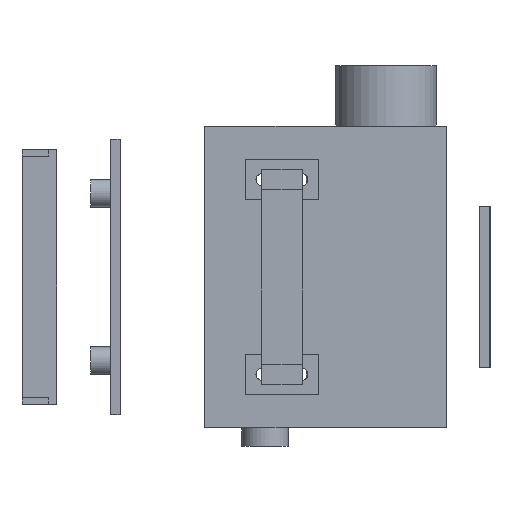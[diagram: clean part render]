
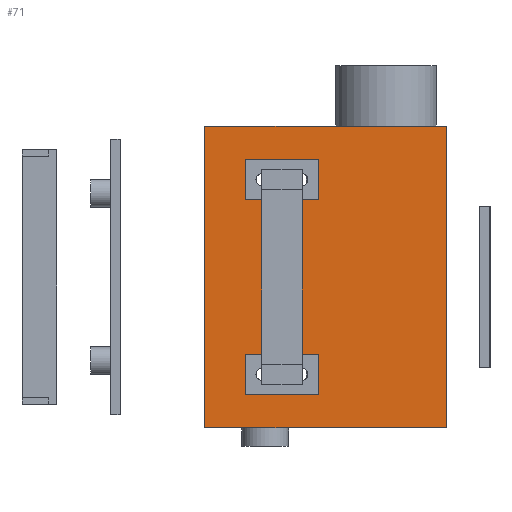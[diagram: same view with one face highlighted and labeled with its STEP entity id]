
A CAD part, left-side view. The second image highlights one B-rep face of the part: STEP entity #71.
In plain terms, the highlighted planar face has unit normal (-1, 0, 0).
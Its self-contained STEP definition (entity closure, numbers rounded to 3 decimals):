
#71 = ADVANCED_FACE('',(#72,#191,#222,#253,#284),#86,.F.);
#72 = FACE_BOUND('',#73,.F.);
#73 = EDGE_LOOP('',(#74,#109,#137,#165));
#74 = ORIENTED_EDGE('',*,*,#75,.F.);
#75 = EDGE_CURVE('',#76,#78,#80,.T.);
#76 = VERTEX_POINT('',#77);
#77 = CARTESIAN_POINT('',(-120.,-36.,0.));
#78 = VERTEX_POINT('',#79);
#79 = CARTESIAN_POINT('',(-120.,-36.,90.));
#80 = SURFACE_CURVE('',#81,(#85,#97),.PCURVE_S1.);
#81 = LINE('',#82,#83);
#82 = CARTESIAN_POINT('',(-120.,-36.,0.));
#83 = VECTOR('',#84,1.);
#84 = DIRECTION('',(0.,0.,1.));
#85 = PCURVE('',#86,#91);
#86 = PLANE('',#87);
#87 = AXIS2_PLACEMENT_3D('',#88,#89,#90);
#88 = CARTESIAN_POINT('',(-120.,-36.,0.));
#89 = DIRECTION('',(1.,0.,-0.));
#90 = DIRECTION('',(0.,0.,1.));
#91 = DEFINITIONAL_REPRESENTATION('',(#92),#96);
#92 = LINE('',#93,#94);
#93 = CARTESIAN_POINT('',(0.,0.));
#94 = VECTOR('',#95,1.);
#95 = DIRECTION('',(1.,0.));
#96 = ( GEOMETRIC_REPRESENTATION_CONTEXT(2) 
PARAMETRIC_REPRESENTATION_CONTEXT() REPRESENTATION_CONTEXT('2D SPACE',''
  ) );
#97 = PCURVE('',#98,#103);
#98 = PLANE('',#99);
#99 = AXIS2_PLACEMENT_3D('',#100,#101,#102);
#100 = CARTESIAN_POINT('',(-120.,-36.,0.));
#101 = DIRECTION('',(-0.,1.,0.));
#102 = DIRECTION('',(0.,0.,1.));
#103 = DEFINITIONAL_REPRESENTATION('',(#104),#108);
#104 = LINE('',#105,#106);
#105 = CARTESIAN_POINT('',(0.,0.));
#106 = VECTOR('',#107,1.);
#107 = DIRECTION('',(1.,0.));
#108 = ( GEOMETRIC_REPRESENTATION_CONTEXT(2) 
PARAMETRIC_REPRESENTATION_CONTEXT() REPRESENTATION_CONTEXT('2D SPACE',''
  ) );
#109 = ORIENTED_EDGE('',*,*,#110,.T.);
#110 = EDGE_CURVE('',#76,#111,#113,.T.);
#111 = VERTEX_POINT('',#112);
#112 = CARTESIAN_POINT('',(-120.,36.,0.));
#113 = SURFACE_CURVE('',#114,(#118,#125),.PCURVE_S1.);
#114 = LINE('',#115,#116);
#115 = CARTESIAN_POINT('',(-120.,-36.,0.));
#116 = VECTOR('',#117,1.);
#117 = DIRECTION('',(-0.,1.,0.));
#118 = PCURVE('',#86,#119);
#119 = DEFINITIONAL_REPRESENTATION('',(#120),#124);
#120 = LINE('',#121,#122);
#121 = CARTESIAN_POINT('',(0.,0.));
#122 = VECTOR('',#123,1.);
#123 = DIRECTION('',(0.,-1.));
#124 = ( GEOMETRIC_REPRESENTATION_CONTEXT(2) 
PARAMETRIC_REPRESENTATION_CONTEXT() REPRESENTATION_CONTEXT('2D SPACE',''
  ) );
#125 = PCURVE('',#126,#131);
#126 = PLANE('',#127);
#127 = AXIS2_PLACEMENT_3D('',#128,#129,#130);
#128 = CARTESIAN_POINT('',(-120.,-36.,0.));
#129 = DIRECTION('',(0.,0.,1.));
#130 = DIRECTION('',(1.,0.,-0.));
#131 = DEFINITIONAL_REPRESENTATION('',(#132),#136);
#132 = LINE('',#133,#134);
#133 = CARTESIAN_POINT('',(0.,0.));
#134 = VECTOR('',#135,1.);
#135 = DIRECTION('',(0.,1.));
#136 = ( GEOMETRIC_REPRESENTATION_CONTEXT(2) 
PARAMETRIC_REPRESENTATION_CONTEXT() REPRESENTATION_CONTEXT('2D SPACE',''
  ) );
#137 = ORIENTED_EDGE('',*,*,#138,.T.);
#138 = EDGE_CURVE('',#111,#139,#141,.T.);
#139 = VERTEX_POINT('',#140);
#140 = CARTESIAN_POINT('',(-120.,36.,90.));
#141 = SURFACE_CURVE('',#142,(#146,#153),.PCURVE_S1.);
#142 = LINE('',#143,#144);
#143 = CARTESIAN_POINT('',(-120.,36.,0.));
#144 = VECTOR('',#145,1.);
#145 = DIRECTION('',(0.,0.,1.));
#146 = PCURVE('',#86,#147);
#147 = DEFINITIONAL_REPRESENTATION('',(#148),#152);
#148 = LINE('',#149,#150);
#149 = CARTESIAN_POINT('',(0.,-72.));
#150 = VECTOR('',#151,1.);
#151 = DIRECTION('',(1.,0.));
#152 = ( GEOMETRIC_REPRESENTATION_CONTEXT(2) 
PARAMETRIC_REPRESENTATION_CONTEXT() REPRESENTATION_CONTEXT('2D SPACE',''
  ) );
#153 = PCURVE('',#154,#159);
#154 = PLANE('',#155);
#155 = AXIS2_PLACEMENT_3D('',#156,#157,#158);
#156 = CARTESIAN_POINT('',(-120.,36.,0.));
#157 = DIRECTION('',(-0.,1.,0.));
#158 = DIRECTION('',(0.,0.,1.));
#159 = DEFINITIONAL_REPRESENTATION('',(#160),#164);
#160 = LINE('',#161,#162);
#161 = CARTESIAN_POINT('',(0.,0.));
#162 = VECTOR('',#163,1.);
#163 = DIRECTION('',(1.,0.));
#164 = ( GEOMETRIC_REPRESENTATION_CONTEXT(2) 
PARAMETRIC_REPRESENTATION_CONTEXT() REPRESENTATION_CONTEXT('2D SPACE',''
  ) );
#165 = ORIENTED_EDGE('',*,*,#166,.F.);
#166 = EDGE_CURVE('',#78,#139,#167,.T.);
#167 = SURFACE_CURVE('',#168,(#172,#179),.PCURVE_S1.);
#168 = LINE('',#169,#170);
#169 = CARTESIAN_POINT('',(-120.,-36.,90.));
#170 = VECTOR('',#171,1.);
#171 = DIRECTION('',(-0.,1.,0.));
#172 = PCURVE('',#86,#173);
#173 = DEFINITIONAL_REPRESENTATION('',(#174),#178);
#174 = LINE('',#175,#176);
#175 = CARTESIAN_POINT('',(90.,0.));
#176 = VECTOR('',#177,1.);
#177 = DIRECTION('',(0.,-1.));
#178 = ( GEOMETRIC_REPRESENTATION_CONTEXT(2) 
PARAMETRIC_REPRESENTATION_CONTEXT() REPRESENTATION_CONTEXT('2D SPACE',''
  ) );
#179 = PCURVE('',#180,#185);
#180 = PLANE('',#181);
#181 = AXIS2_PLACEMENT_3D('',#182,#183,#184);
#182 = CARTESIAN_POINT('',(-120.,-36.,90.));
#183 = DIRECTION('',(0.,0.,1.));
#184 = DIRECTION('',(1.,0.,-0.));
#185 = DEFINITIONAL_REPRESENTATION('',(#186),#190);
#186 = LINE('',#187,#188);
#187 = CARTESIAN_POINT('',(0.,0.));
#188 = VECTOR('',#189,1.);
#189 = DIRECTION('',(0.,1.));
#190 = ( GEOMETRIC_REPRESENTATION_CONTEXT(2) 
PARAMETRIC_REPRESENTATION_CONTEXT() REPRESENTATION_CONTEXT('2D SPACE',''
  ) );
#191 = FACE_BOUND('',#192,.F.);
#192 = EDGE_LOOP('',(#193));
#193 = ORIENTED_EDGE('',*,*,#194,.F.);
#194 = EDGE_CURVE('',#195,#195,#197,.T.);
#195 = VERTEX_POINT('',#196);
#196 = CARTESIAN_POINT('',(-120.,19.,20.4));
#197 = SURFACE_CURVE('',#198,(#203,#210),.PCURVE_S1.);
#198 = CIRCLE('',#199,4.4);
#199 = AXIS2_PLACEMENT_3D('',#200,#201,#202);
#200 = CARTESIAN_POINT('',(-120.,19.,16.));
#201 = DIRECTION('',(1.,0.,0.));
#202 = DIRECTION('',(-0.,0.,1.));
#203 = PCURVE('',#86,#204);
#204 = DEFINITIONAL_REPRESENTATION('',(#205),#209);
#205 = CIRCLE('',#206,4.4);
#206 = AXIS2_PLACEMENT_2D('',#207,#208);
#207 = CARTESIAN_POINT('',(16.,-55.));
#208 = DIRECTION('',(1.,0.));
#209 = ( GEOMETRIC_REPRESENTATION_CONTEXT(2) 
PARAMETRIC_REPRESENTATION_CONTEXT() REPRESENTATION_CONTEXT('2D SPACE',''
  ) );
#210 = PCURVE('',#211,#216);
#211 = CYLINDRICAL_SURFACE('',#212,4.4);
#212 = AXIS2_PLACEMENT_3D('',#213,#214,#215);
#213 = CARTESIAN_POINT('',(-120.2,19.,16.));
#214 = DIRECTION('',(1.,0.,0.));
#215 = DIRECTION('',(-0.,0.,1.));
#216 = DEFINITIONAL_REPRESENTATION('',(#217),#221);
#217 = LINE('',#218,#219);
#218 = CARTESIAN_POINT('',(0.,0.2));
#219 = VECTOR('',#220,1.);
#220 = DIRECTION('',(1.,0.));
#221 = ( GEOMETRIC_REPRESENTATION_CONTEXT(2) 
PARAMETRIC_REPRESENTATION_CONTEXT() REPRESENTATION_CONTEXT('2D SPACE',''
  ) );
#222 = FACE_BOUND('',#223,.F.);
#223 = EDGE_LOOP('',(#224));
#224 = ORIENTED_EDGE('',*,*,#225,.F.);
#225 = EDGE_CURVE('',#226,#226,#228,.T.);
#226 = VERTEX_POINT('',#227);
#227 = CARTESIAN_POINT('',(-120.,19.,78.4));
#228 = SURFACE_CURVE('',#229,(#234,#241),.PCURVE_S1.);
#229 = CIRCLE('',#230,4.4);
#230 = AXIS2_PLACEMENT_3D('',#231,#232,#233);
#231 = CARTESIAN_POINT('',(-120.,19.,74.));
#232 = DIRECTION('',(1.,0.,0.));
#233 = DIRECTION('',(-0.,0.,1.));
#234 = PCURVE('',#86,#235);
#235 = DEFINITIONAL_REPRESENTATION('',(#236),#240);
#236 = CIRCLE('',#237,4.4);
#237 = AXIS2_PLACEMENT_2D('',#238,#239);
#238 = CARTESIAN_POINT('',(74.,-55.));
#239 = DIRECTION('',(1.,0.));
#240 = ( GEOMETRIC_REPRESENTATION_CONTEXT(2) 
PARAMETRIC_REPRESENTATION_CONTEXT() REPRESENTATION_CONTEXT('2D SPACE',''
  ) );
#241 = PCURVE('',#242,#247);
#242 = CYLINDRICAL_SURFACE('',#243,4.4);
#243 = AXIS2_PLACEMENT_3D('',#244,#245,#246);
#244 = CARTESIAN_POINT('',(-120.2,19.,74.));
#245 = DIRECTION('',(1.,0.,0.));
#246 = DIRECTION('',(-0.,0.,1.));
#247 = DEFINITIONAL_REPRESENTATION('',(#248),#252);
#248 = LINE('',#249,#250);
#249 = CARTESIAN_POINT('',(0.,0.2));
#250 = VECTOR('',#251,1.);
#251 = DIRECTION('',(1.,0.));
#252 = ( GEOMETRIC_REPRESENTATION_CONTEXT(2) 
PARAMETRIC_REPRESENTATION_CONTEXT() REPRESENTATION_CONTEXT('2D SPACE',''
  ) );
#253 = FACE_BOUND('',#254,.F.);
#254 = EDGE_LOOP('',(#255));
#255 = ORIENTED_EDGE('',*,*,#256,.F.);
#256 = EDGE_CURVE('',#257,#257,#259,.T.);
#257 = VERTEX_POINT('',#258);
#258 = CARTESIAN_POINT('',(-120.,7.,20.4));
#259 = SURFACE_CURVE('',#260,(#265,#272),.PCURVE_S1.);
#260 = CIRCLE('',#261,4.4);
#261 = AXIS2_PLACEMENT_3D('',#262,#263,#264);
#262 = CARTESIAN_POINT('',(-120.,7.,16.));
#263 = DIRECTION('',(1.,0.,0.));
#264 = DIRECTION('',(-0.,0.,1.));
#265 = PCURVE('',#86,#266);
#266 = DEFINITIONAL_REPRESENTATION('',(#267),#271);
#267 = CIRCLE('',#268,4.4);
#268 = AXIS2_PLACEMENT_2D('',#269,#270);
#269 = CARTESIAN_POINT('',(16.,-43.));
#270 = DIRECTION('',(1.,0.));
#271 = ( GEOMETRIC_REPRESENTATION_CONTEXT(2) 
PARAMETRIC_REPRESENTATION_CONTEXT() REPRESENTATION_CONTEXT('2D SPACE',''
  ) );
#272 = PCURVE('',#273,#278);
#273 = CYLINDRICAL_SURFACE('',#274,4.4);
#274 = AXIS2_PLACEMENT_3D('',#275,#276,#277);
#275 = CARTESIAN_POINT('',(-120.2,7.,16.));
#276 = DIRECTION('',(1.,0.,0.));
#277 = DIRECTION('',(-0.,0.,1.));
#278 = DEFINITIONAL_REPRESENTATION('',(#279),#283);
#279 = LINE('',#280,#281);
#280 = CARTESIAN_POINT('',(0.,0.2));
#281 = VECTOR('',#282,1.);
#282 = DIRECTION('',(1.,0.));
#283 = ( GEOMETRIC_REPRESENTATION_CONTEXT(2) 
PARAMETRIC_REPRESENTATION_CONTEXT() REPRESENTATION_CONTEXT('2D SPACE',''
  ) );
#284 = FACE_BOUND('',#285,.F.);
#285 = EDGE_LOOP('',(#286));
#286 = ORIENTED_EDGE('',*,*,#287,.F.);
#287 = EDGE_CURVE('',#288,#288,#290,.T.);
#288 = VERTEX_POINT('',#289);
#289 = CARTESIAN_POINT('',(-120.,7.,78.4));
#290 = SURFACE_CURVE('',#291,(#296,#303),.PCURVE_S1.);
#291 = CIRCLE('',#292,4.4);
#292 = AXIS2_PLACEMENT_3D('',#293,#294,#295);
#293 = CARTESIAN_POINT('',(-120.,7.,74.));
#294 = DIRECTION('',(1.,0.,0.));
#295 = DIRECTION('',(-0.,0.,1.));
#296 = PCURVE('',#86,#297);
#297 = DEFINITIONAL_REPRESENTATION('',(#298),#302);
#298 = CIRCLE('',#299,4.4);
#299 = AXIS2_PLACEMENT_2D('',#300,#301);
#300 = CARTESIAN_POINT('',(74.,-43.));
#301 = DIRECTION('',(1.,0.));
#302 = ( GEOMETRIC_REPRESENTATION_CONTEXT(2) 
PARAMETRIC_REPRESENTATION_CONTEXT() REPRESENTATION_CONTEXT('2D SPACE',''
  ) );
#303 = PCURVE('',#304,#309);
#304 = CYLINDRICAL_SURFACE('',#305,4.4);
#305 = AXIS2_PLACEMENT_3D('',#306,#307,#308);
#306 = CARTESIAN_POINT('',(-120.2,7.,74.));
#307 = DIRECTION('',(1.,0.,0.));
#308 = DIRECTION('',(-0.,0.,1.));
#309 = DEFINITIONAL_REPRESENTATION('',(#310),#314);
#310 = LINE('',#311,#312);
#311 = CARTESIAN_POINT('',(0.,0.2));
#312 = VECTOR('',#313,1.);
#313 = DIRECTION('',(1.,0.));
#314 = ( GEOMETRIC_REPRESENTATION_CONTEXT(2) 
PARAMETRIC_REPRESENTATION_CONTEXT() REPRESENTATION_CONTEXT('2D SPACE',''
  ) );
